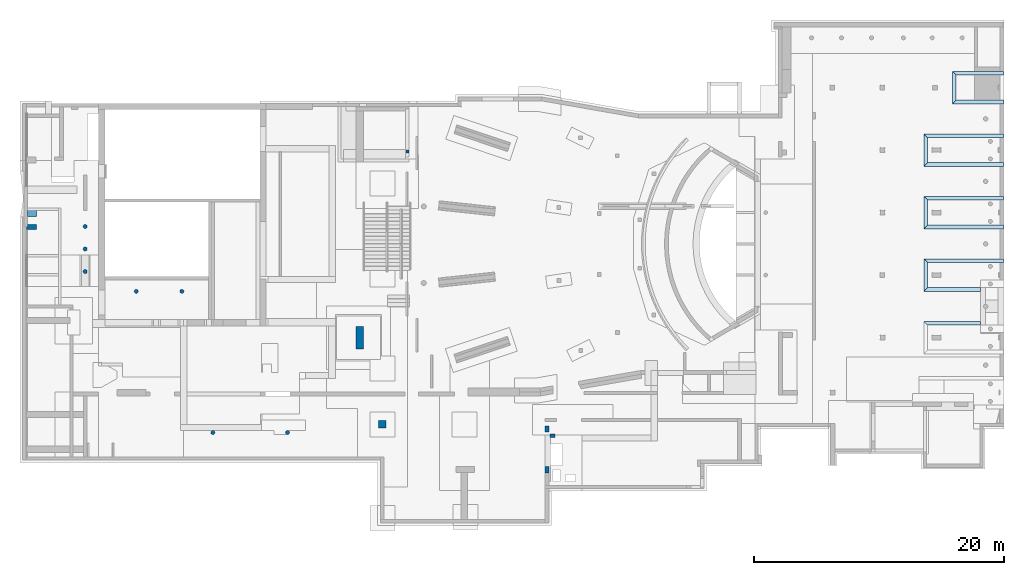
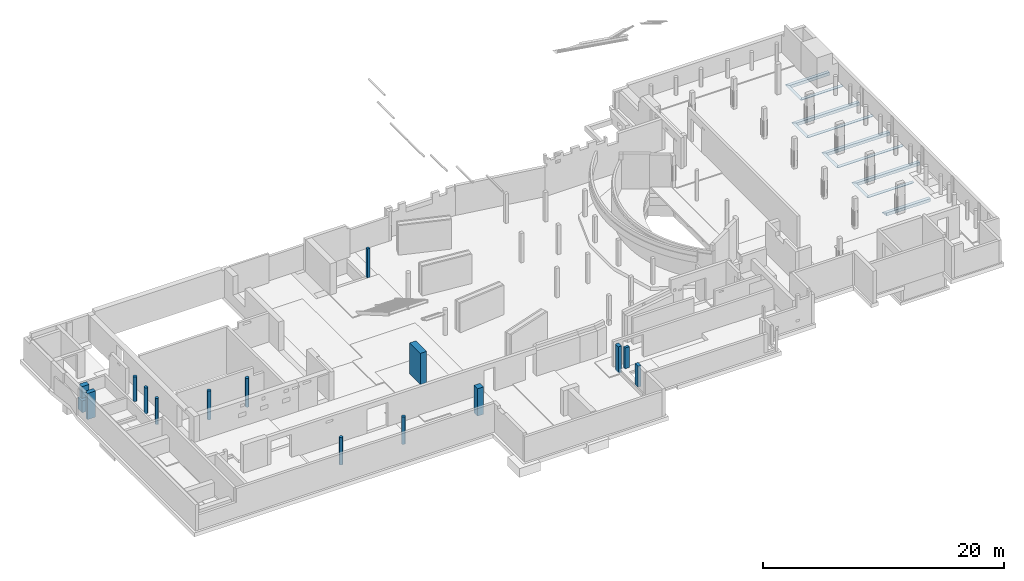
# One storey, part 2 of 42: 15 columns, 13 footings.
"""IFC2X3 building model written with IfcOpenShell, lengths in millimetres."""

from ifc_helpers import new_model, entity, si_unit, converted_unit, derived_unit, direction, frame, frame_2d, origin, origin_2d_with_axis, place, context, subcontext, project, spatial, polyline, circle_curve, parameter, trimmed, segment, composite_curve, rectangle, circle, hollow_circle, outline, extrude, faceted_brep, source, transform, mapped, material, material_list, type_object, type_shapes, element, save


model = new_model("IFC2X3")

# Units and contexts
model_context = context("Model", 3, precision=0.01, world=origin(), true_north=direction((6.12303176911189e-17, 1.0)))
body_context = subcontext(model_context, "Body", "Model", "MODEL_VIEW")
ifc_project = project(units=[si_unit("LENGTHUNIT", "METRE", prefix="MILLI"), si_unit("AREAUNIT", "SQUARE_METRE", prefix="MILLI"), si_unit("VOLUMEUNIT", "CUBIC_METRE"), converted_unit("PLANEANGLEUNIT", "DEGREE", entity("IfcRatioMeasure", 0.0174532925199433), si_unit("PLANEANGLEUNIT", "RADIAN"), dimensions=[0, 0, 0, 0, 0, 0, 0]), si_unit("MASSUNIT", "GRAM", prefix="KILO"), derived_unit("MASSDENSITYUNIT", [(si_unit("MASSUNIT", "GRAM", prefix="KILO"), 1), (si_unit("LENGTHUNIT", "METRE"), -3)]), derived_unit("MOMENTOFINERTIAUNIT", [(si_unit("LENGTHUNIT", "METRE"), 4)]), si_unit("TIMEUNIT", "SECOND"), si_unit("FREQUENCYUNIT", "HERTZ"), si_unit("THERMODYNAMICTEMPERATUREUNIT", "DEGREE_CELSIUS"), derived_unit("THERMALTRANSMITTANCEUNIT", [(si_unit("MASSUNIT", "GRAM", prefix="KILO"), 1), (si_unit("THERMODYNAMICTEMPERATUREUNIT", "KELVIN"), -1), (si_unit("TIMEUNIT", "SECOND"), -3)]), derived_unit("VOLUMETRICFLOWRATEUNIT", [(si_unit("LENGTHUNIT", "METRE"), 3), (si_unit("TIMEUNIT", "SECOND"), -1)]), si_unit("ELECTRICCURRENTUNIT", "AMPERE"), si_unit("ELECTRICVOLTAGEUNIT", "VOLT"), si_unit("POWERUNIT", "WATT"), si_unit("FORCEUNIT", "NEWTON", prefix="KILO"), si_unit("ILLUMINANCEUNIT", "LUX"), si_unit("LUMINOUSFLUXUNIT", "LUMEN"), si_unit("LUMINOUSINTENSITYUNIT", "CANDELA"), derived_unit("USERDEFINED", [(si_unit("MASSUNIT", "GRAM", prefix="KILO"), -1), (si_unit("LENGTHUNIT", "METRE"), -2), (si_unit("TIMEUNIT", "SECOND"), 3), (si_unit("LUMINOUSFLUXUNIT", "LUMEN"), 1)]), derived_unit("LINEARVELOCITYUNIT", [(si_unit("LENGTHUNIT", "METRE"), 1), (si_unit("TIMEUNIT", "SECOND"), -1)]), si_unit("PRESSUREUNIT", "PASCAL"), derived_unit("USERDEFINED", [(si_unit("LENGTHUNIT", "METRE"), -2), (si_unit("MASSUNIT", "GRAM", prefix="KILO"), 1), (si_unit("TIMEUNIT", "SECOND"), -2)]), derived_unit("LINEARFORCEUNIT", [(si_unit("MASSUNIT", "GRAM", prefix="KILO"), 1), (si_unit("LENGTHUNIT", "METRE"), 1), (si_unit("TIMEUNIT", "SECOND"), -2), (si_unit("LENGTHUNIT", "METRE"), -1)]), derived_unit("PLANARFORCEUNIT", [(si_unit("MASSUNIT", "GRAM", prefix="KILO"), 1), (si_unit("LENGTHUNIT", "METRE"), 1), (si_unit("TIMEUNIT", "SECOND"), -2), (si_unit("LENGTHUNIT", "METRE"), -2)])], contexts=[model_context])

# Site, building, storey
site_placement = place(None, origin())
site = spatial("IfcSite", under=ifc_project, at=site_placement, Name="Theater aan de Parade", CompositionType="ELEMENT")
building_placement = place(site_placement, origin())
building = spatial("IfcBuilding", under=site, at=building_placement, Name="Theater aan de Parade", CompositionType="ELEMENT")
storey_placement = place(building_placement, frame((0.0, 0.0, -3300.0)))
storey = spatial("IfcBuildingStorey", under=building, at=storey_placement, Name="-1 kelder", CompositionType="ELEMENT", Elevation=-3300.0)

# Footings
ifc_material_1 = material(Name="00_PBT_MAT_beton t.p.g.")
type_product_1 = type_object("IfcTypeProduct", Name="16_PBT_SF_funderingsbalk_driehoek:300x300_bestaand", material=ifc_material_1)
shared_shape_1 = source(origin(), body_context, "Body", "Brep", [
    faceted_brep([(6390.0, 300.0, 300.0), (6390.0, 0.0, 300.0), (6390.0, 300.0, 0.0), (300.0, 300.0, 300.0), (0.0, 0.0, 300.0), (300.0, 300.0, 0.0)], [[[0, 1, 2]], [[1, 0, 3, 4]], [[2, 1, 4, 5]], [[0, 2, 5, 3]], [[3, 5, 4]]]),
])
type_shapes(type_product_1, [shared_shape_1])
footing_1_placement = place(storey_placement, frame((82270.0, 38665.0, -40.0)))
element("IfcFooting", 1, at=footing_1_placement, inside=storey, type_object=type_product_1, material=ifc_material_1, Name="16_PBT_SF_funderingsbalk_driehoek:300x300_bestaand", ObjectType="16_PBT_SF_funderingsbalk_driehoek:300x300_bestaand", context=body_context, shape_type="MappedRepresentation", body=[
    mapped(shared_shape_1, transform((0.0, 0.0, 0.0), scale=1.0)),
])
type_product_2 = type_object("IfcTypeProduct", Name="16_PBT_SF_funderingsbalk_driehoek:300x300_bestaand", material=ifc_material_1)
shared_shape_2 = source(origin(), body_context, "Body", "Brep", [
    faceted_brep([(6390.0, 0.0, 300.0), (6390.0, 0.0, 0.0), (6390.0, 300.0, 300.0), (0.0, 300.0, 300.0), (300.0, 0.0, 300.0), (300.0, 0.0, 0.0)], [[[0, 1, 2]], [[2, 3, 4, 0]], [[1, 5, 3, 2]], [[0, 4, 5, 1]], [[4, 3, 5]]]),
])
type_shapes(type_product_2, [shared_shape_2])
footing_2_placement = place(storey_placement, frame((82270.0, 40965.0, -40.0)))
element("IfcFooting", 2, at=footing_2_placement, inside=storey, type_object=type_product_2, material=ifc_material_1, Name="16_PBT_SF_funderingsbalk_driehoek:300x300_bestaand", ObjectType="16_PBT_SF_funderingsbalk_driehoek:300x300_bestaand", context=body_context, shape_type="MappedRepresentation", body=[
    mapped(shared_shape_2, transform((0.0, 0.0, 0.0), scale=1.0)),
])
type_product_3 = type_object("IfcTypeProduct", Name="16_PBT_SF_funderingsbalk_driehoek:300x300_bestaand", material=ifc_material_1)
shared_shape_3 = source(origin(), body_context, "Body", "Brep", [
    faceted_brep([(300.0, 300.0, 300.0), (300.0, 2300.0, 300.0), (0.0, 2600.0, 300.0), (0.0, 0.0, 300.0), (300.0, 2300.0, 0.0), (300.0, 300.0, 0.0)], [[[0, 1, 2, 3]], [[3, 2, 4, 5]], [[1, 0, 5, 4]], [[0, 3, 5]], [[1, 4, 2]]]),
])
type_shapes(type_product_3, [shared_shape_3])
footing_3_placement = place(storey_placement, frame((82270.0, 38665.0, -40.0)))
element("IfcFooting", 3, at=footing_3_placement, inside=storey, type_object=type_product_3, material=ifc_material_1, Name="16_PBT_SF_funderingsbalk_driehoek:300x300_bestaand", ObjectType="16_PBT_SF_funderingsbalk_driehoek:300x300_bestaand", context=body_context, shape_type="MappedRepresentation", body=[
    mapped(shared_shape_3, transform((0.0, 0.0, 0.0), scale=1.0)),
])
type_product_4 = type_object("IfcTypeProduct", Name="16_PBT_SF_funderingsbalk_driehoek:300x300_bestaand", material=ifc_material_1)
shared_shape_4 = source(origin(), body_context, "Body", "Brep", [
    faceted_brep([(6390.0, 300.0, 300.0), (6390.0, 0.0, 300.0), (6390.0, 300.0, 0.0), (300.0, 300.0, 300.0), (0.0, 0.0, 300.0), (300.0, 300.0, 0.0)], [[[0, 1, 2]], [[1, 0, 3, 4]], [[2, 1, 4, 5]], [[0, 2, 5, 3]], [[3, 5, 4]]]),
])
type_shapes(type_product_4, [shared_shape_4])
footing_4_placement = place(storey_placement, frame((82270.0, 33670.0, -40.0)))
element("IfcFooting", 4, at=footing_4_placement, inside=storey, type_object=type_product_4, material=ifc_material_1, Name="16_PBT_SF_funderingsbalk_driehoek:300x300_bestaand", ObjectType="16_PBT_SF_funderingsbalk_driehoek:300x300_bestaand", context=body_context, shape_type="MappedRepresentation", body=[
    mapped(shared_shape_4, transform((0.0, 0.0, 0.0), scale=1.0)),
])
type_product_5 = type_object("IfcTypeProduct", Name="16_PBT_SF_funderingsbalk_driehoek:300x300_bestaand", material=ifc_material_1)
shared_shape_5 = source(origin(), body_context, "Body", "Brep", [
    faceted_brep([(6390.0, 0.0, 300.0), (6390.0, 0.0, 0.0), (6390.0, 300.0, 300.0), (0.0, 300.0, 300.0), (300.0, 0.0, 300.0), (300.0, 0.0, 0.0)], [[[0, 1, 2]], [[2, 3, 4, 0]], [[1, 5, 3, 2]], [[0, 4, 5, 1]], [[4, 3, 5]]]),
])
type_shapes(type_product_5, [shared_shape_5])
footing_5_placement = place(storey_placement, frame((82270.0, 35970.0, -40.0)))
element("IfcFooting", 5, at=footing_5_placement, inside=storey, type_object=type_product_5, material=ifc_material_1, Name="16_PBT_SF_funderingsbalk_driehoek:300x300_bestaand", ObjectType="16_PBT_SF_funderingsbalk_driehoek:300x300_bestaand", context=body_context, shape_type="MappedRepresentation", body=[
    mapped(shared_shape_5, transform((0.0, 0.0, 0.0), scale=1.0)),
])
type_product_6 = type_object("IfcTypeProduct", Name="16_PBT_SF_funderingsbalk_driehoek:300x300_bestaand", material=ifc_material_1)
shared_shape_6 = source(origin(), body_context, "Body", "Brep", [
    faceted_brep([(300.0, 300.0, 300.0), (300.0, 2300.0, 300.0), (0.0, 2600.0, 300.0), (0.0, 0.0, 300.0), (300.0, 2300.0, 0.0), (300.0, 300.0, 0.0)], [[[0, 1, 2, 3]], [[3, 2, 4, 5]], [[1, 0, 5, 4]], [[0, 3, 5]], [[1, 4, 2]]]),
])
type_shapes(type_product_6, [shared_shape_6])
footing_6_placement = place(storey_placement, frame((82270.0, 33670.0, -40.0)))
element("IfcFooting", 6, at=footing_6_placement, inside=storey, type_object=type_product_6, material=ifc_material_1, Name="16_PBT_SF_funderingsbalk_driehoek:300x300_bestaand", ObjectType="16_PBT_SF_funderingsbalk_driehoek:300x300_bestaand", context=body_context, shape_type="MappedRepresentation", body=[
    mapped(shared_shape_6, transform((0.0, 0.0, 0.0), scale=1.0)),
])
type_product_7 = type_object("IfcTypeProduct", Name="16_PBT_SF_funderingsbalk_driehoek:300x300_bestaand", material=ifc_material_1)
shared_shape_7 = source(origin(), body_context, "Body", "Brep", [
    faceted_brep([(4100.0, 300.0, 300.0), (4100.0, 0.0, 300.0), (4100.0, 300.0, 0.0), (300.0, 300.0, 300.0), (0.0, 0.0, 300.0), (300.0, 300.0, 0.0)], [[[0, 1, 2]], [[1, 0, 3, 4]], [[2, 1, 4, 5]], [[0, 2, 5, 3]], [[3, 5, 4]]]),
])
type_shapes(type_product_7, [shared_shape_7])
footing_7_placement = place(storey_placement, frame((84560.0, 43660.0, -40.0)))
element("IfcFooting", 7, at=footing_7_placement, inside=storey, type_object=type_product_7, material=ifc_material_1, Name="16_PBT_SF_funderingsbalk_driehoek:300x300_bestaand", ObjectType="16_PBT_SF_funderingsbalk_driehoek:300x300_bestaand", context=body_context, shape_type="MappedRepresentation", body=[
    mapped(shared_shape_7, transform((0.0, 0.0, 0.0), scale=1.0)),
])
type_product_8 = type_object("IfcTypeProduct", Name="16_PBT_SF_funderingsbalk_driehoek:300x300_bestaand", material=ifc_material_1)
shared_shape_8 = source(origin(), body_context, "Body", "Brep", [
    faceted_brep([(4100.0, 0.0, 300.0), (4100.0, 0.0, 0.0), (4100.0, 300.0, 300.0), (0.0, 300.0, 300.0), (300.0, 0.0, 300.0), (300.0, 0.0, 0.0)], [[[0, 1, 2]], [[2, 3, 4, 0]], [[1, 5, 3, 2]], [[0, 4, 5, 1]], [[4, 3, 5]]]),
])
type_shapes(type_product_8, [shared_shape_8])
footing_8_placement = place(storey_placement, frame((84560.0, 45960.0, -40.0)))
element("IfcFooting", 8, at=footing_8_placement, inside=storey, type_object=type_product_8, material=ifc_material_1, Name="16_PBT_SF_funderingsbalk_driehoek:300x300_bestaand", ObjectType="16_PBT_SF_funderingsbalk_driehoek:300x300_bestaand", context=body_context, shape_type="MappedRepresentation", body=[
    mapped(shared_shape_8, transform((0.0, 0.0, 0.0), scale=1.0)),
])
type_product_9 = type_object("IfcTypeProduct", Name="16_PBT_SF_funderingsbalk_driehoek:300x300_bestaand", material=ifc_material_1)
shared_shape_9 = source(origin(), body_context, "Body", "Brep", [
    faceted_brep([(300.0, 300.0, 300.0), (300.0, 2300.0, 300.0), (0.0, 2600.0, 300.0), (0.0, 0.0, 300.0), (300.0, 2300.0, 0.0), (300.0, 300.0, 0.0)], [[[0, 1, 2, 3]], [[3, 2, 4, 5]], [[1, 0, 5, 4]], [[0, 3, 5]], [[1, 4, 2]]]),
])
type_shapes(type_product_9, [shared_shape_9])
footing_9_placement = place(storey_placement, frame((84560.0, 43660.0, -40.0)))
element("IfcFooting", 9, at=footing_9_placement, inside=storey, type_object=type_product_9, material=ifc_material_1, Name="16_PBT_SF_funderingsbalk_driehoek:300x300_bestaand", ObjectType="16_PBT_SF_funderingsbalk_driehoek:300x300_bestaand", context=body_context, shape_type="MappedRepresentation", body=[
    mapped(shared_shape_9, transform((0.0, 0.0, 0.0), scale=1.0)),
])
type_product_10 = type_object("IfcTypeProduct", Name="16_PBT_SF_funderingsbalk_driehoek:300x300_bestaand", material=ifc_material_1)
shared_shape_10 = source(origin(), body_context, "Body", "Brep", [
    faceted_brep([(300.0, 300.0, 300.0), (0.0, 0.0, 300.0), (4520.0, 0.0, 300.0), (4520.0, 300.0, 300.0), (300.0, 300.0, 0.0), (4520.0, 300.0, 0.0)], [[[0, 1, 2, 3]], [[1, 4, 5, 2]], [[4, 0, 3, 5]], [[3, 2, 5]], [[0, 4, 1]]]),
])
type_shapes(type_product_10, [shared_shape_10])
footing_10_placement = place(storey_placement, frame((82270.0, 28670.0, -40.0)))
element("IfcFooting", 10, at=footing_10_placement, inside=storey, type_object=type_product_10, material=ifc_material_1, Name="16_PBT_SF_funderingsbalk_driehoek:300x300_bestaand", ObjectType="16_PBT_SF_funderingsbalk_driehoek:300x300_bestaand", context=body_context, shape_type="MappedRepresentation", body=[
    mapped(shared_shape_10, transform((0.0, 0.0, 0.0), scale=1.0)),
])
type_product_11 = type_object("IfcTypeProduct", Name="16_PBT_SF_funderingsbalk_driehoek:300x300_bestaand", material=ifc_material_1)
shared_shape_11 = source(origin(), body_context, "Body", "Brep", [
    faceted_brep([(6390.0, 0.0, 300.0), (6390.0, 0.0, 0.0), (6390.0, 300.0, 300.0), (0.0, 300.0, 300.0), (300.0, 0.0, 300.0), (300.0, 0.0, 0.0)], [[[0, 1, 2]], [[2, 3, 4, 0]], [[1, 5, 3, 2]], [[0, 4, 5, 1]], [[4, 3, 5]]]),
])
type_shapes(type_product_11, [shared_shape_11])
footing_11_placement = place(storey_placement, frame((82270.0, 30970.0, -40.0)))
element("IfcFooting", 11, at=footing_11_placement, inside=storey, type_object=type_product_11, material=ifc_material_1, Name="16_PBT_SF_funderingsbalk_driehoek:300x300_bestaand", ObjectType="16_PBT_SF_funderingsbalk_driehoek:300x300_bestaand", context=body_context, shape_type="MappedRepresentation", body=[
    mapped(shared_shape_11, transform((0.0, 0.0, 0.0), scale=1.0)),
])
type_product_12 = type_object("IfcTypeProduct", Name="16_PBT_SF_funderingsbalk_driehoek:300x300_bestaand", material=ifc_material_1)
shared_shape_12 = source(origin(), body_context, "Body", "Brep", [
    faceted_brep([(300.0, 300.0, 300.0), (300.0, 2300.0, 300.0), (0.0, 2600.0, 300.0), (0.0, 0.0, 300.0), (300.0, 2300.0, 0.0), (300.0, 300.0, 0.0)], [[[0, 1, 2, 3]], [[3, 2, 4, 5]], [[1, 0, 5, 4]], [[0, 3, 5]], [[1, 4, 2]]]),
])
type_shapes(type_product_12, [shared_shape_12])
footing_12_placement = place(storey_placement, frame((82270.0, 28670.0, -40.0)))
element("IfcFooting", 12, at=footing_12_placement, inside=storey, type_object=type_product_12, material=ifc_material_1, Name="16_PBT_SF_funderingsbalk_driehoek:300x300_bestaand", ObjectType="16_PBT_SF_funderingsbalk_driehoek:300x300_bestaand", context=body_context, shape_type="MappedRepresentation", body=[
    mapped(shared_shape_12, transform((0.0, 0.0, 0.0), scale=1.0)),
])
type_product_13 = type_object("IfcTypeProduct", Name="16_PBT_SF_funderingsbalk_driehoek:300x300_bestaand", material=ifc_material_1)
shared_shape_13 = source(origin(), body_context, "Body", "Brep", [
    faceted_brep([(0.0, 300.0, 300.0), (300.0, 0.0, 300.0), (4520.0, 0.0, 300.0), (4520.0, 300.0, 300.0), (300.0, 0.0, 0.0), (4520.0, 0.0, 0.0)], [[[0, 1, 2, 3]], [[4, 0, 3, 5]], [[1, 4, 5, 2]], [[3, 2, 5]], [[1, 0, 4]]]),
])
type_shapes(type_product_13, [shared_shape_13])
footing_13_placement = place(storey_placement, frame((82270.0, 25970.0, -40.0)))
element("IfcFooting", 13, at=footing_13_placement, inside=storey, type_object=type_product_13, material=ifc_material_1, Name="16_PBT_SF_funderingsbalk_driehoek:300x300_bestaand", ObjectType="16_PBT_SF_funderingsbalk_driehoek:300x300_bestaand", context=body_context, shape_type="MappedRepresentation", body=[
    mapped(shared_shape_13, transform((0.0, 0.0, 0.0), scale=1.0)),
])

# Columns
column_type_1 = type_object("IfcColumnType", Name="28_PBT_SC_beton_rechthoekig:500x300_bestaand", PredefinedType="COLUMN", material=ifc_material_1)
shared_shape_14 = source(origin(), body_context, "Body", "SweptSolid", [
    extrude(rectangle(XDim=500.00000000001, YDim=300.000000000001, at=frame_2d((-1.08002495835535e-12, 0.0), x_axis=(1.0, 0.0))), frame((52125.0, 14410.0, -2780.0), z_axis=(0.0, 0.0, 1.0), x_axis=(0.0, -1.0, 0.0)), (0.0, 0.0, 1.0), 2100.00000000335),
])
type_shapes(column_type_1, [shared_shape_14])
column_1_placement = place(storey_placement, frame((0.0, 0.0, 3300.0)))
element("IfcColumn", 14, at=column_1_placement, inside=storey, type_object=column_type_1, material=ifc_material_1, Name="28_PBT_SC_beton_rechthoekig:500x300_bestaand", ObjectType="28_PBT_SC_beton_rechthoekig:500x300_bestaand", context=body_context, shape_type="MappedRepresentation", body=[
    mapped(shared_shape_14, transform((0.0, 0.0, 0.0), scale=1.0)),
])
column_type_2 = type_object("IfcColumnType", Name="28_PBT_SC_beton_rechthoekig:420x250_bestaand", PredefinedType="COLUMN", material=ifc_material_1)
shared_shape_15 = source(origin(), body_context, "Body", "SweptSolid", [
    extrude(rectangle(XDim=249.999999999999, YDim=420.000000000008, at=frame_2d((0.0, 8.66862137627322e-12), x_axis=(1.0, 0.0))), frame((52575.0, 17125.0, -2780.0), z_axis=(0.0, 0.0, 1.0), x_axis=(0.0, -1.0, 0.0)), (0.0, 0.0, 1.0), 2100.00000000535),
])
type_shapes(column_type_2, [shared_shape_15])
column_2_placement = place(storey_placement, frame((0.0, 0.0, 3300.0)))
element("IfcColumn", 15, at=column_2_placement, inside=storey, type_object=column_type_2, material=ifc_material_1, Name="28_PBT_SC_beton_rechthoekig:420x250_bestaand", ObjectType="28_PBT_SC_beton_rechthoekig:420x250_bestaand", context=body_context, shape_type="MappedRepresentation", body=[
    mapped(shared_shape_15, transform((0.0, 0.0, 0.0), scale=1.0)),
])
column_type_3 = type_object("IfcColumnType", Name="28_PBT_SC_beton_rechthoekig:500x300_bestaand", PredefinedType="COLUMN", material=ifc_material_1)
shared_shape_16 = source(origin(), body_context, "Body", "SweptSolid", [
    extrude(rectangle(XDim=500.00000000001, YDim=300.000000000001, at=frame_2d((-1.08002495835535e-12, 0.0), x_axis=(1.0, 0.0))), frame((52125.0, 17660.0, -3340.0), z_axis=(0.0, 0.0, 1.0), x_axis=(0.0, -1.0, 0.0)), (0.0, 0.0, 1.0), 2660.00000000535),
])
type_shapes(column_type_3, [shared_shape_16])
column_3_placement = place(storey_placement, frame((0.0, 0.0, 3300.0)))
element("IfcColumn", 16, at=column_3_placement, inside=storey, type_object=column_type_3, material=ifc_material_1, Name="28_PBT_SC_beton_rechthoekig:500x300_bestaand", ObjectType="28_PBT_SC_beton_rechthoekig:500x300_bestaand", context=body_context, shape_type="MappedRepresentation", body=[
    mapped(shared_shape_16, transform((0.0, 0.0, 0.0), scale=1.0)),
])
column_type_4 = type_object("IfcColumnType", Name="28_PBT_SC_beton_rechthoekig:600x600_bestaand", PredefinedType="COLUMN", material=ifc_material_1)
shared_shape_17 = source(origin(), body_context, "Body", "SweptSolid", [
    extrude(rectangle(XDim=600.000000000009, YDim=599.999999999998, at=frame_2d((-1.08002495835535e-12, 2.1600499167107e-12), x_axis=(1.0, 0.0))), frame((38965.0, 18040.0, -3240.0), z_axis=(0.0, 0.0, 1.0), x_axis=(0.0, -1.0, 0.0)), (0.0, 0.0, 1.0), 2780.0000000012),
])
type_shapes(column_type_4, [shared_shape_17])
column_4_placement = place(storey_placement, frame((0.0, 0.0, 3300.0)))
element("IfcColumn", 17, at=column_4_placement, inside=storey, type_object=column_type_4, material=ifc_material_1, Name="28_PBT_SC_beton_rechthoekig:600x600_bestaand", ObjectType="28_PBT_SC_beton_rechthoekig:600x600_bestaand", context=body_context, shape_type="MappedRepresentation", body=[
    mapped(shared_shape_17, transform((0.0, 0.0, 0.0), scale=1.0)),
])
column_type_5 = type_object("IfcColumnType", Name="16_PBT_SC_beton_rechthoekig:1100x400_bestaand", PredefinedType="COLUMN", material=ifc_material_1)
shared_shape_18 = source(origin(), body_context, "Body", "SweptSolid", [
    extrude(outline(polyline([(-10.0, -303.333333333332), (205.0, -303.333333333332), (205.0, 496.666666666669), (-195.0, 496.666666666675), (-195.0, -193.333333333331), (-10.0, -193.333333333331), (-10.0, -303.333333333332)])), frame((10793.3333333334, 33805.0, -3340.0), z_axis=(0.0, 0.0, 1.0), x_axis=(0.0, -1.0, 0.0)), (0.0, 0.0, 1.0), 2650.00000000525),
])
type_shapes(column_type_5, [shared_shape_18])
column_5_placement = place(storey_placement, frame((0.0, 0.0, 3300.0)))
element("IfcColumn", 18, at=column_5_placement, inside=storey, type_object=column_type_5, material=ifc_material_1, Name="16_PBT_SC_beton_rechthoekig:1100x400_bestaand", ObjectType="16_PBT_SC_beton_rechthoekig:1100x400_bestaand", context=body_context, shape_type="MappedRepresentation", body=[
    mapped(shared_shape_18, transform((0.0, 0.0, 0.0), scale=1.0)),
])
ifc_material_2 = material(Name="00_PBT_MAT_staal_S355")
ifc_material_3 = material(Name="00_PBT_MAT_beton t.p.g._C40/50")
ifc_material_list_1 = material_list([ifc_material_2, ifc_material_3])
ifc_material_list_2 = material_list([ifc_material_2, ifc_material_3])
column_type_6 = type_object("IfcColumnType", Name="28_PBT_SC_staal_buis:S355_B323.9x10_GB_C40/50", PredefinedType="COLUMN", material=ifc_material_list_2)
shared_shape_19 = source(origin(), body_context, "Body", "SweptSolid", [
    extrude(hollow_circle(Radius=161.95, WallThickness=9.99999999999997, at=frame_2d((1.77837538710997e-15, -2.97621380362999e-13), x_axis=(1.0, 0.0))), frame((0.0, 0.0, -3205.0), z_axis=(0.0, 0.0, 1.0), x_axis=(-1.0, 0.0, 0.0)), (0.0, 0.0, 1.0), 2490.00000000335),
    extrude(circle(Radius=151.95, at=frame_2d((-6.17986865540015e-15, 1.29141200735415e-12), x_axis=(1.0, 0.0))), frame((0.0, 0.0, -3205.0)), (0.0, 0.0, 1.0), 2490.00000000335),
])
type_shapes(column_type_6, [shared_shape_19])
column_6_placement = place(storey_placement, frame((15203.8570025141, 33855.1469046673, 3300.0)))
element("IfcColumn", 19, at=column_6_placement, inside=storey, type_object=column_type_6, material=ifc_material_list_1, Name="28_PBT_SC_staal_buis:S355_B323.9x10_GB_C40/50", ObjectType="28_PBT_SC_staal_buis:S355_B323.9x10_GB_C40/50", context=body_context, shape_type="MappedRepresentation", body=[
    mapped(shared_shape_19, transform((0.0, 0.0, 0.0), scale=1.0)),
])
ifc_material_list_3 = material_list([ifc_material_2, ifc_material_3])
ifc_material_list_4 = material_list([ifc_material_2, ifc_material_3])
column_type_7 = type_object("IfcColumnType", Name="28_PBT_SC_staal_buis:S355_B323.9x10_GB_C40/50", PredefinedType="COLUMN", material=ifc_material_list_4)
shared_shape_20 = source(origin(), body_context, "Body", "SweptSolid", [
    extrude(hollow_circle(Radius=161.95, WallThickness=9.99999999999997, at=frame_2d((1.77837538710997e-15, -2.97621380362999e-13), x_axis=(1.0, 0.0))), frame((0.0, 0.0, -3340.0), z_axis=(0.0, 0.0, 1.0), x_axis=(-1.0, 0.0, 0.0)), (0.0, 0.0, 1.0), 2625.00000000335),
    extrude(circle(Radius=151.95, at=frame_2d((-6.17986865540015e-15, 1.29141200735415e-12), x_axis=(1.0, 0.0))), frame((0.0, 0.0, -3340.0)), (0.0, 0.0, 1.0), 2625.00000000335),
])
type_shapes(column_type_7, [shared_shape_20])
column_7_placement = place(storey_placement, frame((15203.8570025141, 32054.9304192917, 3300.0)))
element("IfcColumn", 20, at=column_7_placement, inside=storey, type_object=column_type_7, material=ifc_material_list_3, Name="28_PBT_SC_staal_buis:S355_B323.9x10_GB_C40/50", ObjectType="28_PBT_SC_staal_buis:S355_B323.9x10_GB_C40/50", context=body_context, shape_type="MappedRepresentation", body=[
    mapped(shared_shape_20, transform((0.0, 0.0, 0.0), scale=1.0)),
])
ifc_material_list_5 = material_list([ifc_material_2, ifc_material_3])
ifc_material_list_6 = material_list([ifc_material_2, ifc_material_3])
column_type_8 = type_object("IfcColumnType", Name="28_PBT_SC_staal_buis:S355_B323.9x16_GB_C40/50", PredefinedType="COLUMN", material=ifc_material_list_6)
shared_shape_21 = source(origin(), body_context, "Body", "SweptSolid", [
    extrude(hollow_circle(Radius=161.95, WallThickness=16.0, at=frame_2d((1.77837538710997e-15, -2.97621380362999e-13), x_axis=(1.0, 0.0))), frame((0.0, 0.0, -3340.0), z_axis=(0.0, 0.0, 1.0), x_axis=(-1.0, 0.0, 0.0)), (0.0, 0.0, 1.0), 2625.00000000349),
    extrude(circle(Radius=145.95, at=frame_2d((-6.17986865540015e-15, 1.20801103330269e-12), x_axis=(1.0, 0.0))), frame((0.0, 0.0, -3340.0)), (0.0, 0.0, 1.0), 2625.00000000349),
])
type_shapes(column_type_8, [shared_shape_21])
column_8_placement = place(storey_placement, frame((15203.8570025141, 30255.1246824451, 3300.0)))
element("IfcColumn", 21, at=column_8_placement, inside=storey, type_object=column_type_8, material=ifc_material_list_5, Name="28_PBT_SC_staal_buis:S355_B323.9x16_GB_C40/50", ObjectType="28_PBT_SC_staal_buis:S355_B323.9x16_GB_C40/50", context=body_context, shape_type="MappedRepresentation", body=[
    mapped(shared_shape_21, transform((0.0, 0.0, 0.0), scale=1.0)),
])
ifc_material_list_7 = material_list([ifc_material_2, ifc_material_3])
ifc_material_list_8 = material_list([ifc_material_2, ifc_material_3])
column_type_9 = type_object("IfcColumnType", Name="28_PBT_SC_staal_buis:S355_B323.9x16_GB_C40/50", PredefinedType="COLUMN", material=ifc_material_list_8)
shared_shape_22 = source(origin(), body_context, "Body", "SweptSolid", [
    extrude(hollow_circle(Radius=161.95, WallThickness=16.0, at=frame_2d((1.77837538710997e-15, -2.97621380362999e-13), x_axis=(1.0, 0.0))), frame((0.0, 0.0, -3205.0), z_axis=(0.0, 0.0, 1.0), x_axis=(-1.0, 0.0, 0.0)), (0.0, 0.0, 1.0), 2770.00000000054),
    extrude(circle(Radius=145.95, at=frame_2d((-6.17986865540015e-15, 1.20801103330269e-12), x_axis=(1.0, 0.0))), frame((0.0, 0.0, -3205.0)), (0.0, 0.0, 1.0), 2770.00000000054),
])
type_shapes(column_type_9, [shared_shape_22])
column_9_placement = place(storey_placement, frame((25410.0, 17380.0, 3300.0)))
element("IfcColumn", 22, at=column_9_placement, inside=storey, type_object=column_type_9, material=ifc_material_list_7, Name="28_PBT_SC_staal_buis:S355_B323.9x16_GB_C40/50", ObjectType="28_PBT_SC_staal_buis:S355_B323.9x16_GB_C40/50", context=body_context, shape_type="MappedRepresentation", body=[
    mapped(shared_shape_22, transform((0.0, 0.0, 0.0), scale=1.0)),
])
ifc_material_list_9 = material_list([ifc_material_2, ifc_material_3])
column_10_placement = place(storey_placement, frame((31375.0, 17380.0, 3300.0)))
element("IfcColumn", 23, at=column_10_placement, inside=storey, type_object=column_type_9, material=ifc_material_list_9, Name="28_PBT_SC_staal_buis:S355_B323.9x16_GB_C40/50", ObjectType="28_PBT_SC_staal_buis:S355_B323.9x16_GB_C40/50", context=body_context, shape_type="MappedRepresentation", body=[
    mapped(shared_shape_22, transform((0.0, 0.0, 0.0), scale=1.0)),
])
ifc_material_4 = material(Name="00_PBT_MAT_beton t.p.g._C30/37")
column_type_10 = type_object("IfcColumnType", Name="28_PBT_SC_beton_rechthoekig:C30/37_1785x600", PredefinedType="COLUMN", material=ifc_material_4)
shared_shape_23 = source(origin(), body_context, "Body", "SweptSolid", [
    extrude(rectangle(XDim=1785.00000000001, YDim=600.000000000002, at=origin_2d_with_axis()), frame((37153.8581300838, 24962.3674033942, -3240.0), z_axis=(0.0, 0.0, 1.0), x_axis=(0.0, -1.0, 0.0)), (0.0, 0.0, 1.0), 3150.00000000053),
])
type_shapes(column_type_10, [shared_shape_23])
column_11_placement = place(storey_placement, frame((0.0, 0.0, 3300.0)))
element("IfcColumn", 24, at=column_11_placement, inside=storey, type_object=column_type_10, material=ifc_material_4, Name="28_PBT_SC_beton_rechthoekig:C30/37_1785x600", ObjectType="28_PBT_SC_beton_rechthoekig:C30/37_1785x600", context=body_context, shape_type="MappedRepresentation", body=[
    mapped(shared_shape_23, transform((0.0, 0.0, 0.0), scale=1.0)),
])
ifc_material_list_10 = material_list([ifc_material_3, ifc_material_2])
ifc_material_list_11 = material_list([ifc_material_3, ifc_material_2])
column_type_11 = type_object("IfcColumnType", Name="28_PBT_SC_staal_koker:S355_K250x250x20_GB_C40/50", PredefinedType="COLUMN", material=ifc_material_list_11)
shared_shape_24 = source(origin(), body_context, "Body", "SweptSolid", [
    extrude(outline(composite_curve([segment(polyline([(-85.0, -105.0), (85.0, -105.0)]), True, "CONTINUOUS"), segment(trimmed(circle_curve(frame_2d((85.0, -85.0), x_axis=(-1.0, 0.0)), 20.0), [parameter(90.0000000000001)], [parameter(180.0)], True, "PARAMETER"), True, "CONTINUOUS"), segment(polyline([(105.0, -85.0), (105.0, 85.0)]), True, "CONTINUOUS"), segment(trimmed(circle_curve(frame_2d((85.0, 85.0), x_axis=(-1.0, 0.0)), 20.0), [parameter(180.0)], [parameter(269.999999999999)], True, "PARAMETER"), True, "CONTINUOUS"), segment(polyline([(85.0, 105.0), (-85.0, 105.0)]), True, "CONTINUOUS"), segment(trimmed(circle_curve(frame_2d((-85.0, 85.0), x_axis=(-1.0, 0.0)), 20.0), [parameter(270.0)], [parameter(1.01777749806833e-13)], True, "PARAMETER"), True, "CONTINUOUS"), segment(polyline([(-105.0, 85.0), (-105.0, -85.0)]), True, "CONTINUOUS"), segment(trimmed(circle_curve(frame_2d((-85.0, -85.0), x_axis=(-1.0, 0.0)), 20.0), [parameter(0.0)], [parameter(90.0000000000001)], True, "PARAMETER"), True, "CONTINUOUS")], self_intersect=False)), frame((40963.8581275, 39850.0, -3340.0)), (0.0, 0.0, 1.0), 2930.00000000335),
    extrude(outline(composite_curve([segment(trimmed(circle_curve(frame_2d((-100.0, -100.0), x_axis=(1.0, 0.0)), 25.0), [parameter(180.0)], [parameter(270.0)], True, "PARAMETER"), True, "CONTINUOUS"), segment(polyline([(-100.0, -125.0), (100.0, -125.0)]), True, "CONTINUOUS"), segment(trimmed(circle_curve(frame_2d((100.0, -100.0), x_axis=(1.0, 0.0)), 25.0), [parameter(270.0)], [parameter(0.0)], True, "PARAMETER"), True, "CONTINUOUS"), segment(polyline([(125.0, -100.0), (125.0, 100.0)]), True, "CONTINUOUS"), segment(trimmed(circle_curve(frame_2d((100.0, 100.0), x_axis=(1.0, 0.0)), 25.0), [parameter(3.56222124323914e-13)], [parameter(90.0000000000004)], True, "PARAMETER"), True, "CONTINUOUS"), segment(polyline([(100.0, 125.0), (-100.0, 125.0)]), True, "CONTINUOUS"), segment(trimmed(circle_curve(frame_2d((-100.0, 100.0), x_axis=(1.0, 0.0)), 25.0), [parameter(90.0)], [parameter(180.0)], True, "PARAMETER"), True, "CONTINUOUS"), segment(polyline([(-125.0, 100.0), (-125.0, -100.0)]), True, "CONTINUOUS")], self_intersect=False), holes=[composite_curve([segment(trimmed(circle_curve(frame_2d((85.0, 85.0), x_axis=(1.0, 0.0)), 20.0), [parameter(0.0)], [parameter(90.0000000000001)], True, "PARAMETER"), False, "CONTINUOUS"), segment(polyline([(105.0, 85.0), (105.0, -85.0)]), True, "CONTINUOUS"), segment(trimmed(circle_curve(frame_2d((85.0, -85.0), x_axis=(1.0, 0.0)), 20.0), [parameter(270.0)], [parameter(360.0)], True, "PARAMETER"), False, "CONTINUOUS"), segment(polyline([(85.0, -105.0), (-85.0, -105.0)]), True, "CONTINUOUS"), segment(trimmed(circle_curve(frame_2d((-85.0, -85.0), x_axis=(1.0, 0.0)), 20.0), [parameter(180.0)], [parameter(270.0)], True, "PARAMETER"), False, "CONTINUOUS"), segment(polyline([(-105.0, -85.0), (-105.0, 85.0)]), True, "CONTINUOUS"), segment(trimmed(circle_curve(frame_2d((-85.0, 85.0), x_axis=(1.0, 0.0)), 20.0), [parameter(89.9999999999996)], [parameter(180.0)], True, "PARAMETER"), False, "CONTINUOUS"), segment(polyline([(-85.0, 105.0), (85.0, 105.0)]), True, "CONTINUOUS")], self_intersect=False)]), frame((40963.8581275, 39850.0, -3340.0)), (0.0, 0.0, 1.0), 2930.00000000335),
])
type_shapes(column_type_11, [shared_shape_24])
column_12_placement = place(storey_placement, frame((0.0, 0.0, 3300.0)))
element("IfcColumn", 25, at=column_12_placement, inside=storey, type_object=column_type_11, material=ifc_material_list_10, Name="28_PBT_SC_staal_koker:S355_K250x250x20_GB_C40/50", ObjectType="28_PBT_SC_staal_koker:S355_K250x250x20_GB_C40/50", context=body_context, shape_type="MappedRepresentation", body=[
    mapped(shared_shape_24, transform((0.0, 0.0, 0.0), scale=1.0)),
])
ifc_material_list_12 = material_list([ifc_material_3, ifc_material_2])
ifc_material_list_13 = material_list([ifc_material_3, ifc_material_2])
column_type_12 = type_object("IfcColumnType", Name="28_PBT_SC_staal_buis:S355_B323.9x10_GB_C40/50", PredefinedType="COLUMN", material=ifc_material_list_13)
shared_shape_25 = source(origin(), body_context, "Body", "SweptSolid", [
    extrude(circle(Radius=151.95, at=origin_2d_with_axis()), frame((19285.0, 28673.3144998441, -3340.0)), (0.0, 0.0, 1.0), 2930.00000000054),
    extrude(hollow_circle(Radius=161.95, WallThickness=9.99999999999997, at=origin_2d_with_axis()), frame((19285.0, 28673.3144998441, -3340.0), z_axis=(0.0, 0.0, 1.0), x_axis=(-1.0, 0.0, 0.0)), (0.0, 0.0, 1.0), 2930.00000000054),
])
type_shapes(column_type_12, [shared_shape_25])
column_13_placement = place(storey_placement, frame((0.0, 0.0, 3300.0)))
element("IfcColumn", 26, at=column_13_placement, inside=storey, type_object=column_type_12, material=ifc_material_list_12, Name="28_PBT_SC_staal_buis:S355_B323.9x10_GB_C40/50", ObjectType="28_PBT_SC_staal_buis:S355_B323.9x10_GB_C40/50", context=body_context, shape_type="MappedRepresentation", body=[
    mapped(shared_shape_25, transform((0.0, 0.0, 0.0), scale=1.0)),
])
ifc_material_list_14 = material_list([ifc_material_3, ifc_material_2])
ifc_material_list_15 = material_list([ifc_material_3, ifc_material_2])
column_type_13 = type_object("IfcColumnType", Name="28_PBT_SC_staal_buis:S355_B323.9x10_GB_C40/50", PredefinedType="COLUMN", material=ifc_material_list_15)
shared_shape_26 = source(origin(), body_context, "Body", "SweptSolid", [
    extrude(circle(Radius=151.95, at=origin_2d_with_axis()), frame((22935.0, 28673.3144998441, -3340.0)), (0.0, 0.0, 1.0), 2930.00000000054),
    extrude(hollow_circle(Radius=161.95, WallThickness=9.99999999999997, at=origin_2d_with_axis()), frame((22935.0, 28673.3144998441, -3340.0), z_axis=(0.0, 0.0, 1.0), x_axis=(-1.0, 0.0, 0.0)), (0.0, 0.0, 1.0), 2930.00000000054),
])
type_shapes(column_type_13, [shared_shape_26])
column_14_placement = place(storey_placement, frame((0.0, 0.0, 3300.0)))
element("IfcColumn", 27, at=column_14_placement, inside=storey, type_object=column_type_13, material=ifc_material_list_14, Name="28_PBT_SC_staal_buis:S355_B323.9x10_GB_C40/50", ObjectType="28_PBT_SC_staal_buis:S355_B323.9x10_GB_C40/50", context=body_context, shape_type="MappedRepresentation", body=[
    mapped(shared_shape_26, transform((0.0, 0.0, 0.0), scale=1.0)),
])
column_type_14 = type_object("IfcColumnType", Name="16_PBT_SC_beton_rechthoekig:C30/37_690x660", PredefinedType="COLUMN", material=ifc_material_4)
shared_shape_27 = source(origin(), body_context, "Body", "SweptSolid", [
    extrude(rectangle(XDim=659.999999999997, YDim=690.00000000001, at=frame_2d((0.0, -1.08002495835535e-12), x_axis=(1.0, 0.0))), frame((10945.0, 35002.0, -3340.0), z_axis=(0.0, 0.0, 1.0), x_axis=(0.0, -1.0, 0.0)), (0.0, 0.0, 1.0), 1200.0),
    extrude(rectangle(XDim=459.999999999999, YDim=690.00000000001, at=frame_2d((-4.32009983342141e-12, -2.1600499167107e-12), x_axis=(1.0, 0.0))), frame((10945.0, 34902.0, -1890.0), z_axis=(0.0, 0.0, 1.0), x_axis=(0.0, -1.0, 0.0)), (0.0, 0.0, 1.0), 1200.00000000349),
])
type_shapes(column_type_14, [shared_shape_27])
column_15_placement = place(storey_placement, frame((0.0, 0.0, 3300.0)))
element("IfcColumn", 28, at=column_15_placement, inside=storey, type_object=column_type_14, material=ifc_material_4, Name="16_PBT_SC_beton_rechthoekig:C30/37_690x660", ObjectType="16_PBT_SC_beton_rechthoekig:C30/37_690x660", context=body_context, shape_type="MappedRepresentation", body=[
    mapped(shared_shape_27, transform((0.0, 0.0, 0.0), scale=1.0)),
])

save(model, "model.ifc")
